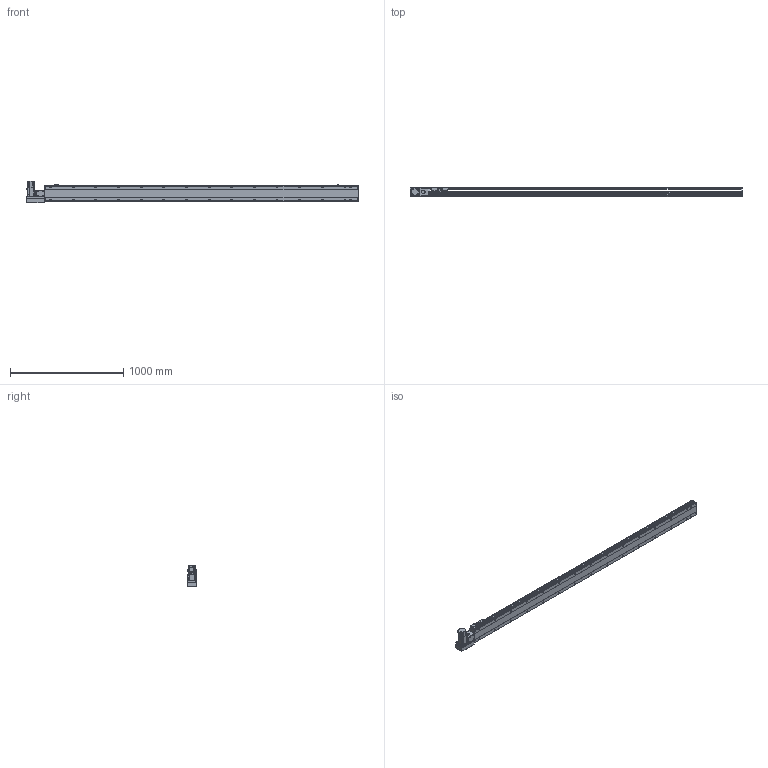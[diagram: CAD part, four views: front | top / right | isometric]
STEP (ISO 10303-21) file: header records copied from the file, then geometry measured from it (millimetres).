
FILE_DESCRIPTION(/* description */ ('STEP AP214'),/* implementation_level */ '2;1');
FILE_NAME(/* name */ 'PBS140-P40-S2500-L-T40-C1-N(0)',/* time_stamp */ '2022-06-06T03:07:11+02:00',/* author */ ('License CC BY-ND 4.0'),/* organization */ ('CADENAS'),/* preprocessor_version */ 'ST-DEVELOPER v18.102',/* originating_system */ 'PARTsolutions',/* authorisation */ ' ');
FILE_SCHEMA (('AUTOMOTIVE_DESIGN {1 0 10303 214 3 1 1}'));
Length unit declared in the file: millimetre
Products named in the file (7): PBS140-P40-S2500-L-T40-C1-N(0); PBS140_sensor; PBS140_plant; PBS140_sliser; T40-p1; PBS140T-L_motors; PBS140-S2500()_body
Assembly tree (8 placements, depth 2):
  PBS140-P40-S2500-L-T40-C1-N(0)
    PBS140_sensor  x3
    PBS140_plant
    PBS140_sliser
    T40-p1
    PBS140T-L_motors
    PBS140-S2500()_body
Bounding box: 2933 x 80.5 x 189.7 mm (x, y, z)
Volume: 12798869.8 mm3; surface area: 2180704.1 mm2
Topology: 8 solids, 8 shells, 1187 faces, 3116 edges, 2035 vertices
Faces by surface type: plane 734, cylinder 387, cone 56, sphere 8, torus 2
Full cylindrical faces by diameter (mm): 3.242 x4, 4 x2, 4.134 x4, 4.4 x8, 4.5 x2, 4.8 x4, 4.917 x38, 5.5 x7, 6 x2, 7 x32, 7.5 x8, 8 x12, 8.5 x4, 10.5 x30, 14 x1, 30 x2, 50 x2
Entity records: 33851 total; most frequent: CARTESIAN_POINT 6449, DIRECTION 5687, ORIENTED_EDGE 5332, EDGE_CURVE 2666, AXIS2_PLACEMENT_3D 2017, VERTEX_POINT 1869, LINE 1653, VECTOR 1653
